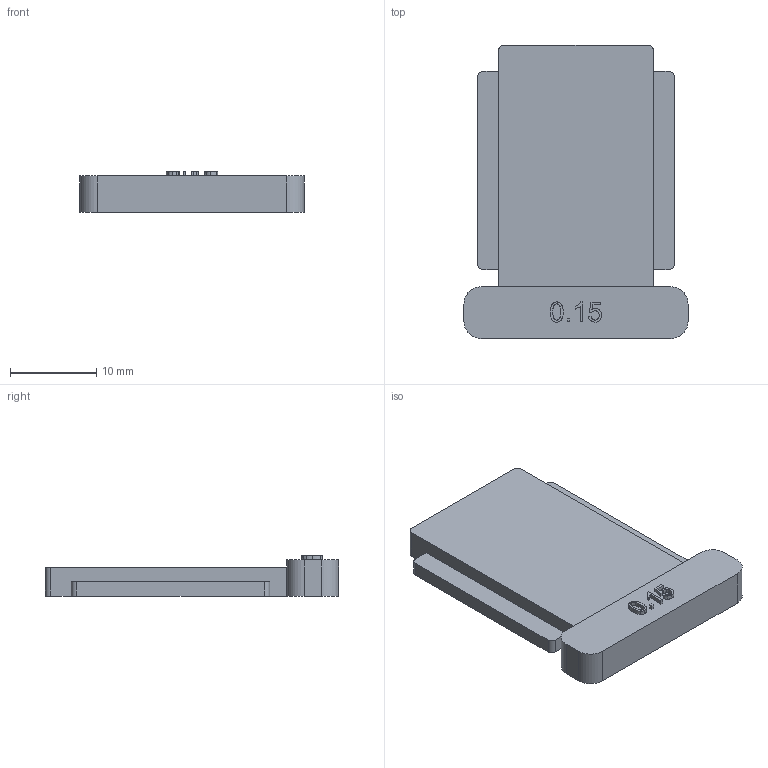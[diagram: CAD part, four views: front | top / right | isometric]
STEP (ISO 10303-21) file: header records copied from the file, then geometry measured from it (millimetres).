
FILE_DESCRIPTION(('Open CASCADE Model'),'2;1');
FILE_NAME('Open CASCADE Shape Model','1970-01-01T00:00:00',('Author'),( 'Open CASCADE'),'Open CASCADE STEP processor 7.8','Open CASCADE 7.8' ,'Unknown');
FILE_SCHEMA(('AUTOMOTIVE_DESIGN { 1 0 10303 214 1 1 1 1 }'));
Length unit declared in the file: millimetre
Products named in the file (2): Open CASCADE STEP translator 7.8 3; S15 sliding tongue
Assembly tree (1 placements, depth 2):
  Open CASCADE STEP translator 7.8 3
    S15 sliding tongue
Bounding box: 26 x 34 x 4.68 mm (x, y, z)
Volume: 2520.5 mm3; surface area: 2002.6 mm2
Topology: 1 solids, 1 shells, 88 faces, 243 edges, 162 vertices
Faces by surface type: plane 39, extrusion 39, cylinder 10
Entity records: 6681 total; most frequent: CARTESIAN_POINT 2201, DIRECTION 641, ORIENTED_EDGE 486, PCURVE 486, DEFINITIONAL_REPRESENTATION 486, VECTOR 483, LINE 444, B_SPLINE_CURVE_WITH_KNOTS 284
